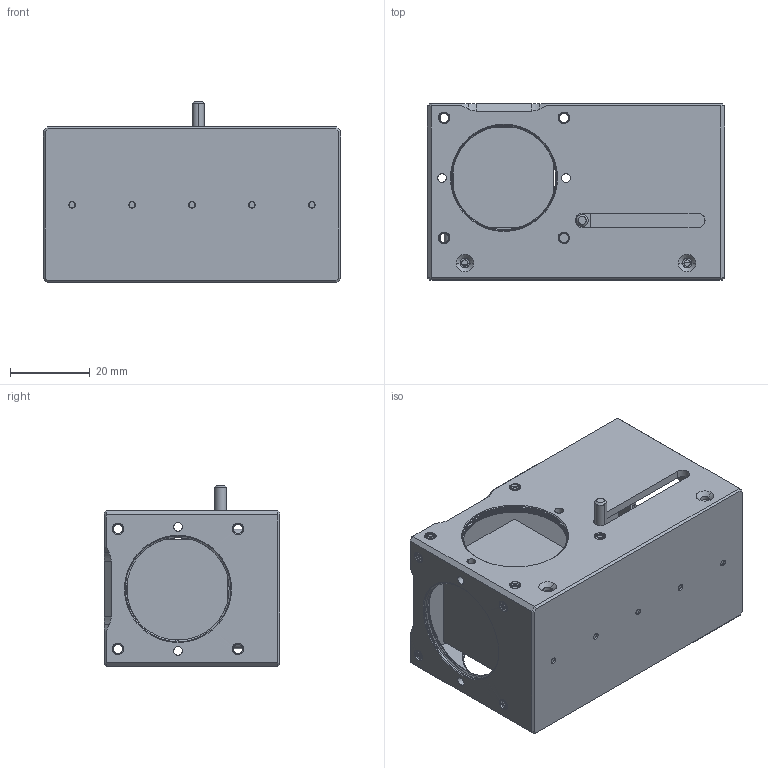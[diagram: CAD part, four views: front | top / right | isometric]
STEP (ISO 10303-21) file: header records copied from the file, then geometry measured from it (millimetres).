
FILE_DESCRIPTION((''),'2;1');
FILE_NAME('CSL30-MXBS-0001_ASM','2025-12-27T11:47:50',('R&D'),(''),'CREO PARAMETRIC BY PTC INC, 2021063','CREO PARAMETRIC BY PTC INC, 2021063','');
FILE_SCHEMA(('CONFIG_CONTROL_DESIGN'));
Products named in the file (1): CSL30-MXBS-0001_ASM
Bounding box: 74.4 x 44 x 45.48 mm (x, y, z)
Volume: 54076.9 mm3; surface area: 34935.8 mm2
Topology: 1 solids, 18 shells, 899 faces, 2376 edges, 1507 vertices
Faces by surface type: plane 364, cylinder 292, bspline 150, cone 80, extrusion 9, sphere 2, torus 2
Entity records: 47510 total; most frequent: CARTESIAN_POINT 26474, ORIENTED_EDGE 4704, DIRECTION 3727, EDGE_CURVE 2352, VERTEX_POINT 1507, VECTOR 1243, AXIS2_PLACEMENT_3D 1242, LINE 1234
